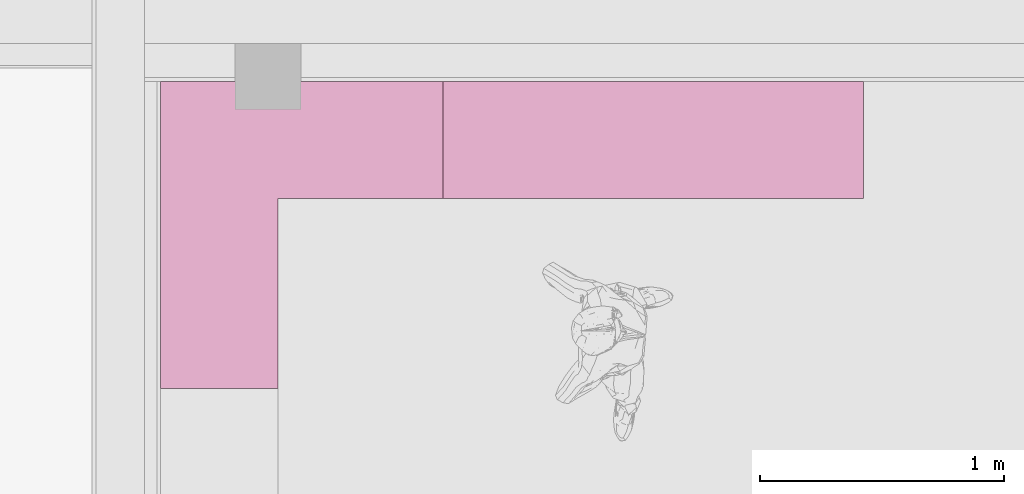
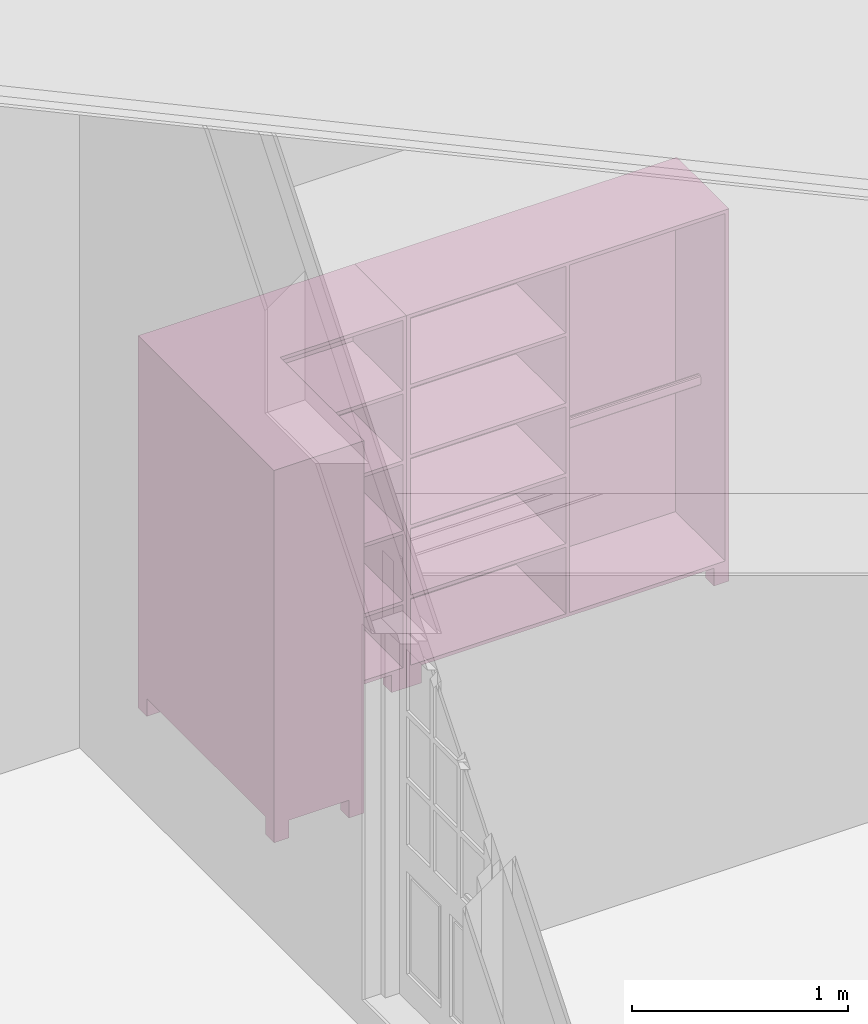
# One storey, part 22 of 24: 2 furnishings.
"""IFC2X3 building model written with IfcOpenShell, lengths in metres."""

from ifc_helpers import new_model, entity, si_unit, converted_unit, derived_unit, money_unit, direction, frame, origin_with_axes, place, context, subcontext, project, spatial, faceted_brep, type_object, element, save


model = new_model("IFC2X3")

# Units and contexts
model_context = context("Model", 3, precision=1e-05, world=origin_with_axes(), true_north=direction((0.0, 1.0)))
body_context = subcontext(model_context, "Body", "Model", "MODEL_VIEW")
ifc_project = project(units=[si_unit("LENGTHUNIT", "METRE"), si_unit("AREAUNIT", "SQUARE_METRE"), si_unit("VOLUMEUNIT", "CUBIC_METRE"), converted_unit("PLANEANGLEUNIT", "DEGREE", entity("IfcPlaneAngleMeasure", 0.0174532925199), si_unit("PLANEANGLEUNIT", "RADIAN"), dimensions=[0, 0, 0, 0, 0, 0, 0]), si_unit("SOLIDANGLEUNIT", "STERADIAN"), money_unit("CHF"), converted_unit("TIMEUNIT", "Year", entity("IfcTimeMeasure", 31556926.0), si_unit("TIMEUNIT", "SECOND"), dimensions=[0, 0, 1, 0, 0, 0, 0]), si_unit("MASSUNIT", "GRAM", prefix="KILO"), si_unit("THERMODYNAMICTEMPERATUREUNIT", "DEGREE_CELSIUS"), si_unit("LUMINOUSINTENSITYUNIT", "LUMEN"), si_unit("ENERGYUNIT", "JOULE", prefix="MEGA"), derived_unit("THERMALCONDUCTANCEUNIT", [(si_unit("POWERUNIT", "WATT"), 1), (si_unit("LENGTHUNIT", "METRE"), -1), (si_unit("THERMODYNAMICTEMPERATUREUNIT", "KELVIN"), -1)]), derived_unit("SPECIFICHEATCAPACITYUNIT", [(si_unit("ENERGYUNIT", "JOULE"), 1), (si_unit("MASSUNIT", "GRAM", prefix="KILO"), -1), (si_unit("THERMODYNAMICTEMPERATUREUNIT", "KELVIN"), -1)]), derived_unit("MASSDENSITYUNIT", [(si_unit("MASSUNIT", "GRAM", prefix="KILO"), 1), (si_unit("VOLUMEUNIT", "CUBIC_METRE"), -1)])], contexts=[model_context])

# Site, building, storey
site_placement = place(None, origin_with_axes())
site = spatial("IfcSite", under=ifc_project, at=site_placement, Name="Site", CompositionType="ELEMENT")
building_placement = place(site_placement, origin_with_axes())
building = spatial("IfcBuilding", under=site, at=building_placement, Name="Bâtiment", CompositionType="ELEMENT")
storey_placement = place(building_placement, origin_with_axes())
storey = spatial("IfcBuildingStorey", under=building, at=storey_placement, Name="Rez-de-chaussée", CompositionType="ELEMENT", Elevation=0.0)

# Furnishings
furniture_type = type_object("IfcFurnitureType", Name="Armoire 01 24", AssemblyPlace="NOTDEFINED")
furnishing_1_placement = place(storey_placement, frame((23.6671417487, 14.7825937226, 0.16), z_axis=(0.0, 0.0, 1.0), x_axis=(1.0, 0.0, 0.0)))
element("IfcFurnishingElement", 1, at=furnishing_1_placement, inside=storey, type_object=furniture_type, Name="MOBILIER-007", context=body_context, shape_type="Brep", body=[
    faceted_brep([(0.0, 0.0, 0.12), (0.48, 0.0, 0.12), (0.48, 0.0, 2.08), (0.0, 0.0, 2.08), (0.0, 1.25534092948, 0.12), (1.15457870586, 1.25534092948, 0.12), (1.15457870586, 0.775340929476, 0.12), (1.13457870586, 0.775340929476, 0.12), (1.13457870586, 1.23534092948, 0.12), (0.02, 1.23534092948, 0.12), (0.02, 0.02, 0.12), (0.48, 0.02, 0.12), (0.48, 0.02, 2.08), (0.02, 0.02, 2.08), (0.02, 1.23534092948, 2.08), (1.13457870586, 1.23534092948, 2.08), (1.13457870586, 0.775340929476, 2.08), (1.15457870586, 0.775340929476, 2.08), (1.15457870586, 1.25534092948, 2.08), (0.0, 1.25534092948, 2.08)], [[[0, 1, 2, 3]], [[0, 4, 5, 6, 7, 8, 9, 10, 11, 1]], [[1, 11, 12, 2]], [[3, 2, 12, 13, 14, 15, 16, 17, 18, 19]], [[4, 0, 3, 19]], [[5, 4, 19, 18]], [[6, 5, 18, 17]], [[7, 6, 17, 16]], [[8, 7, 16, 15]], [[9, 8, 15, 14]], [[10, 9, 14, 13]], [[11, 10, 13, 12]]]),
    faceted_brep([(0.48, 0.775340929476, 0.1), (1.13457870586, 0.775340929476, 0.1), (1.13457870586, 0.775340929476, 0.12), (0.48, 0.775340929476, 0.12), (0.0, 1.25534092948, 0.1), (1.15457870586, 1.25534092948, 0.1), (1.15457870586, 0.775340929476, 0.1), (1.15457870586, 0.775340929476, 0.12), (1.15457870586, 1.25534092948, 0.12), (0.0, 1.25534092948, 0.12)], [[[0, 1, 2, 3]], [[0, 4, 5, 6, 1]], [[1, 6, 7, 2]], [[3, 2, 7, 8, 9]], [[4, 0, 3, 9]], [[5, 4, 9, 8]], [[6, 5, 8, 7]]]),
    faceted_brep([(0.0, 0.0, 0.1), (0.48, 0.0, 0.1), (0.48, 0.0, 0.12), (0.0, 0.0, 0.12), (0.0, 1.25534092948, 0.1), (0.48, 0.775340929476, 0.1), (0.48, 0.02, 0.1), (0.48, 0.02, 0.12), (0.48, 0.775340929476, 0.12), (0.0, 1.25534092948, 0.12)], [[[0, 1, 2, 3]], [[0, 4, 5, 6, 1]], [[1, 6, 7, 2]], [[3, 2, 7, 8, 9]], [[4, 0, 3, 9]], [[5, 4, 9, 8]], [[6, 5, 8, 7]]]),
    faceted_brep([(0.48, 0.775340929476, 2.08), (1.13457870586, 0.775340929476, 2.08), (1.13457870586, 0.775340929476, 2.1), (0.48, 0.775340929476, 2.1), (0.0, 1.25534092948, 2.08), (1.15457870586, 1.25534092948, 2.08), (1.15457870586, 0.775340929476, 2.08), (1.15457870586, 0.775340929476, 2.1), (1.15457870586, 1.25534092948, 2.1), (0.0, 1.25534092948, 2.1)], [[[0, 1, 2, 3]], [[0, 4, 5, 6, 1]], [[1, 6, 7, 2]], [[3, 2, 7, 8, 9]], [[4, 0, 3, 9]], [[5, 4, 9, 8]], [[6, 5, 8, 7]]]),
    faceted_brep([(0.0, 0.0, 2.08), (0.48, 0.0, 2.08), (0.48, 0.0, 2.1), (0.0, 0.0, 2.1), (0.0, 1.25534092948, 2.08), (0.48, 0.775340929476, 2.08), (0.48, 0.02, 2.08), (0.48, 0.02, 2.1), (0.48, 0.775340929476, 2.1), (0.0, 1.25534092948, 2.1)], [[[0, 1, 2, 3]], [[0, 4, 5, 6, 1]], [[1, 6, 7, 2]], [[3, 2, 7, 8, 9]], [[4, 0, 3, 9]], [[5, 4, 9, 8]], [[6, 5, 8, 7]]]),
    faceted_brep([(0.08, 1.17534092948, 0.0), (0.08, 1.25534092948, 0.0), (0.08, 1.25534092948, 0.1), (0.08, 1.17534092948, 0.1), (0.0, 1.17534092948, 0.0), (0.0, 1.25534092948, 0.0), (0.0, 1.25534092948, 0.1), (0.0, 1.17534092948, 0.1)], [[[0, 1, 2, 3]], [[0, 4, 5, 1]], [[1, 5, 6, 2]], [[3, 2, 6, 7]], [[4, 0, 3, 7]], [[5, 4, 7, 6]]]),
    faceted_brep([(1.15457870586, 1.17534092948, 0.0), (1.15457870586, 1.25534092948, 0.0), (1.15457870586, 1.25534092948, 0.1), (1.15457870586, 1.17534092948, 0.1), (1.07457870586, 1.17534092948, 0.0), (1.07457870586, 1.25534092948, 0.0), (1.07457870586, 1.25534092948, 0.1), (1.07457870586, 1.17534092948, 0.1)], [[[0, 1, 2, 3]], [[0, 4, 5, 1]], [[1, 5, 6, 2]], [[3, 2, 6, 7]], [[4, 0, 3, 7]], [[5, 4, 7, 6]]]),
    faceted_brep([(0.08, 0.0, 0.0), (0.08, 0.08, 0.0), (0.08, 0.08, 0.1), (0.08, 0.0, 0.1), (0.0, 0.0, 0.0), (0.0, 0.08, 0.0), (0.0, 0.08, 0.1), (0.0, 0.0, 0.1)], [[[0, 1, 2, 3]], [[0, 4, 5, 1]], [[1, 5, 6, 2]], [[3, 2, 6, 7]], [[4, 0, 3, 7]], [[5, 4, 7, 6]]]),
    faceted_brep([(0.48, 0.0, 0.0), (0.48, 0.08, 0.0), (0.48, 0.08, 0.1), (0.48, 0.0, 0.1), (0.4, 0.0, 0.0), (0.4, 0.08, 0.0), (0.4, 0.08, 0.1), (0.4, 0.0, 0.1)], [[[0, 1, 2, 3]], [[0, 4, 5, 1]], [[1, 5, 6, 2]], [[3, 2, 6, 7]], [[4, 0, 3, 7]], [[5, 4, 7, 6]]]),
    faceted_brep([(1.15457870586, 0.775340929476, 0.0), (1.15457870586, 0.855340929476, 0.0), (1.15457870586, 0.855340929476, 0.1), (1.15457870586, 0.775340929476, 0.1), (1.07457870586, 0.775340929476, 0.0), (1.07457870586, 0.855340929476, 0.0), (1.07457870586, 0.855340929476, 0.1), (1.07457870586, 0.775340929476, 0.1)], [[[0, 1, 2, 3]], [[0, 4, 5, 1]], [[1, 5, 6, 2]], [[3, 2, 6, 7]], [[4, 0, 3, 7]], [[5, 4, 7, 6]]]),
    faceted_brep([(0.48, 0.775340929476, 0.0), (0.48, 0.855340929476, 0.0), (0.48, 0.855340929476, 0.1), (0.48, 0.775340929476, 0.1), (0.4, 0.775340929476, 0.0), (0.4, 0.855340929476, 0.0), (0.4, 0.855340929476, 0.1), (0.4, 0.775340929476, 0.1)], [[[0, 1, 2, 3]], [[0, 4, 5, 1]], [[1, 5, 6, 2]], [[3, 2, 6, 7]], [[4, 0, 3, 7]], [[5, 4, 7, 6]]]),
    faceted_brep([(0.48, 0.775340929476, 0.476), (1.13457870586, 0.775340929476, 0.476), (1.13457870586, 0.775340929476, 0.496), (0.48, 0.775340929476, 0.496), (0.02, 1.23534092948, 0.476), (1.13457870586, 1.23534092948, 0.476), (1.13457870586, 1.23534092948, 0.496), (0.02, 1.23534092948, 0.496)], [[[0, 1, 2, 3]], [[0, 4, 5, 1]], [[1, 5, 6, 2]], [[3, 2, 6, 7]], [[4, 0, 3, 7]], [[5, 4, 7, 6]]]),
    faceted_brep([(0.02, 0.02, 0.476), (0.48, 0.02, 0.476), (0.48, 0.02, 0.496), (0.02, 0.02, 0.496), (0.02, 1.23534092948, 0.476), (0.48, 0.775340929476, 0.476), (0.48, 0.775340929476, 0.496), (0.02, 1.23534092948, 0.496)], [[[0, 1, 2, 3]], [[0, 4, 5, 1]], [[1, 5, 6, 2]], [[3, 2, 6, 7]], [[4, 0, 3, 7]], [[5, 4, 7, 6]]]),
    faceted_brep([(0.48, 0.775340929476, 0.872), (1.13457870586, 0.775340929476, 0.872), (1.13457870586, 0.775340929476, 0.892), (0.48, 0.775340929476, 0.892), (0.02, 1.23534092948, 0.872), (1.13457870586, 1.23534092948, 0.872), (1.13457870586, 1.23534092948, 0.892), (0.02, 1.23534092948, 0.892)], [[[0, 1, 2, 3]], [[0, 4, 5, 1]], [[1, 5, 6, 2]], [[3, 2, 6, 7]], [[4, 0, 3, 7]], [[5, 4, 7, 6]]]),
    faceted_brep([(0.02, 0.02, 0.872), (0.48, 0.02, 0.872), (0.48, 0.02, 0.892), (0.02, 0.02, 0.892), (0.02, 1.23534092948, 0.872), (0.48, 0.775340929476, 0.872), (0.48, 0.775340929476, 0.892), (0.02, 1.23534092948, 0.892)], [[[0, 1, 2, 3]], [[0, 4, 5, 1]], [[1, 5, 6, 2]], [[3, 2, 6, 7]], [[4, 0, 3, 7]], [[5, 4, 7, 6]]]),
    faceted_brep([(0.48, 0.775340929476, 1.268), (1.13457870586, 0.775340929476, 1.268), (1.13457870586, 0.775340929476, 1.288), (0.48, 0.775340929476, 1.288), (0.02, 1.23534092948, 1.268), (1.13457870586, 1.23534092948, 1.268), (1.13457870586, 1.23534092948, 1.288), (0.02, 1.23534092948, 1.288)], [[[0, 1, 2, 3]], [[0, 4, 5, 1]], [[1, 5, 6, 2]], [[3, 2, 6, 7]], [[4, 0, 3, 7]], [[5, 4, 7, 6]]]),
    faceted_brep([(0.02, 0.02, 1.268), (0.48, 0.02, 1.268), (0.48, 0.02, 1.288), (0.02, 0.02, 1.288), (0.02, 1.23534092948, 1.268), (0.48, 0.775340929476, 1.268), (0.48, 0.775340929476, 1.288), (0.02, 1.23534092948, 1.288)], [[[0, 1, 2, 3]], [[0, 4, 5, 1]], [[1, 5, 6, 2]], [[3, 2, 6, 7]], [[4, 0, 3, 7]], [[5, 4, 7, 6]]]),
    faceted_brep([(0.48, 0.775340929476, 1.664), (1.13457870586, 0.775340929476, 1.664), (1.13457870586, 0.775340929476, 1.684), (0.48, 0.775340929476, 1.684), (0.02, 1.23534092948, 1.664), (1.13457870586, 1.23534092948, 1.664), (1.13457870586, 1.23534092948, 1.684), (0.02, 1.23534092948, 1.684)], [[[0, 1, 2, 3]], [[0, 4, 5, 1]], [[1, 5, 6, 2]], [[3, 2, 6, 7]], [[4, 0, 3, 7]], [[5, 4, 7, 6]]]),
    faceted_brep([(0.02, 0.02, 1.664), (0.48, 0.02, 1.664), (0.48, 0.02, 1.684), (0.02, 0.02, 1.684), (0.02, 1.23534092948, 1.664), (0.48, 0.775340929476, 1.664), (0.48, 0.775340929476, 1.684), (0.02, 1.23534092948, 1.684)], [[[0, 1, 2, 3]], [[0, 4, 5, 1]], [[1, 5, 6, 2]], [[3, 2, 6, 7]], [[4, 0, 3, 7]], [[5, 4, 7, 6]]]),
])
furnishing_2_placement = place(storey_placement, frame((24.8217204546, 15.5379346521, 0.16), z_axis=(0.0, 0.0, 1.0), x_axis=(1.0, 0.0, 0.0)))
element("IfcFurnishingElement", 2, at=furnishing_2_placement, inside=storey, type_object=furniture_type, Name="MOBILIER-008", context=body_context, shape_type="Brep", body=[
    faceted_brep([(0.02, 0.5, 0.12), (0.02, 0.48, 0.12), (0.02, 0.48, 2.08), (0.02, 0.5, 2.08), (1.70042129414, 0.5, 0.12), (1.70042129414, 0.48, 0.12), (1.70042129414, 0.48, 2.08), (1.70042129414, 0.5, 2.08)], [[[0, 1, 2, 3]], [[0, 4, 5, 1]], [[1, 5, 6, 2]], [[3, 2, 6, 7]], [[4, 0, 3, 7]], [[5, 4, 7, 6]]]),
    faceted_brep([(1.72042129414, 0.02, 0.1), (1.70042129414, 0.02, 0.1), (1.70042129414, 0.5, 0.1), (1.72042129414, 0.5, 0.1), (1.72042129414, 0.02, 2.1), (1.70042129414, 0.02, 2.1), (1.70042129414, 0.5, 2.1), (1.72042129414, 0.5, 2.1)], [[[0, 1, 2, 3]], [[1, 0, 4, 5]], [[2, 1, 5, 6]], [[3, 2, 6, 7]], [[0, 3, 7, 4]], [[5, 4, 7, 6]]]),
    faceted_brep([(0.02, 0.02, 0.1), (0.0, 0.02, 0.1), (0.0, 0.5, 0.1), (0.02, 0.5, 0.1), (0.02, 0.02, 2.1), (0.0, 0.02, 2.1), (0.0, 0.5, 2.1), (0.02, 0.5, 2.1)], [[[0, 1, 2, 3]], [[1, 0, 4, 5]], [[2, 1, 5, 6]], [[3, 2, 6, 7]], [[0, 3, 7, 4]], [[5, 4, 7, 6]]]),
    faceted_brep([(1.70042129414, 0.02, 0.1), (0.02, 0.02, 0.1), (0.02, 0.5, 0.1), (1.70042129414, 0.5, 0.1), (1.70042129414, 0.02, 0.12), (0.02, 0.02, 0.12), (0.02, 0.5, 0.12), (1.70042129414, 0.5, 0.12)], [[[0, 1, 2, 3]], [[1, 0, 4, 5]], [[2, 1, 5, 6]], [[3, 2, 6, 7]], [[0, 3, 7, 4]], [[5, 4, 7, 6]]]),
    faceted_brep([(1.70042129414, 0.02, 2.08), (0.02, 0.02, 2.08), (0.02, 0.5, 2.08), (1.70042129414, 0.5, 2.08), (1.70042129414, 0.02, 2.1), (0.02, 0.02, 2.1), (0.02, 0.5, 2.1), (1.70042129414, 0.5, 2.1)], [[[0, 1, 2, 3]], [[1, 0, 4, 5]], [[2, 1, 5, 6]], [[3, 2, 6, 7]], [[0, 3, 7, 4]], [[5, 4, 7, 6]]]),
    faceted_brep([(0.08, 0.42, 0.0), (0.08, 0.5, 0.0), (0.08, 0.5, 0.1), (0.08, 0.42, 0.1), (0.0, 0.42, 0.0), (0.0, 0.5, 0.0), (0.0, 0.5, 0.1), (0.0, 0.42, 0.1)], [[[0, 1, 2, 3]], [[0, 4, 5, 1]], [[1, 5, 6, 2]], [[3, 2, 6, 7]], [[4, 0, 3, 7]], [[5, 4, 7, 6]]]),
    faceted_brep([(1.72042129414, 0.42, 0.0), (1.72042129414, 0.5, 0.0), (1.72042129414, 0.5, 0.1), (1.72042129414, 0.42, 0.1), (1.64042129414, 0.42, 0.0), (1.64042129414, 0.5, 0.0), (1.64042129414, 0.5, 0.1), (1.64042129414, 0.42, 0.1)], [[[0, 1, 2, 3]], [[0, 4, 5, 1]], [[1, 5, 6, 2]], [[3, 2, 6, 7]], [[4, 0, 3, 7]], [[5, 4, 7, 6]]]),
    faceted_brep([(0.08, 0.02, 0.0), (0.08, 0.1, 0.0), (0.08, 0.1, 0.1), (0.08, 0.02, 0.1), (0.0, 0.02, 0.0), (0.0, 0.1, 0.0), (0.0, 0.1, 0.1), (0.0, 0.02, 0.1)], [[[0, 1, 2, 3]], [[0, 4, 5, 1]], [[1, 5, 6, 2]], [[3, 2, 6, 7]], [[4, 0, 3, 7]], [[5, 4, 7, 6]]]),
    faceted_brep([(1.72042129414, 0.02, 0.0), (1.72042129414, 0.1, 0.0), (1.72042129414, 0.1, 0.1), (1.72042129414, 0.02, 0.1), (1.64042129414, 0.02, 0.0), (1.64042129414, 0.1, 0.0), (1.64042129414, 0.1, 0.1), (1.64042129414, 0.02, 0.1)], [[[0, 1, 2, 3]], [[0, 4, 5, 1]], [[1, 5, 6, 2]], [[3, 2, 6, 7]], [[4, 0, 3, 7]], [[5, 4, 7, 6]]]),
    faceted_brep([(0.02, 0.48, 0.496), (0.02, 0.02, 0.496), (0.02, 0.02, 0.516), (0.02, 0.48, 0.516), (0.850210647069, 0.48, 0.496), (0.850210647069, 0.02, 0.496), (0.850210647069, 0.02, 0.516), (0.850210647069, 0.48, 0.516)], [[[0, 1, 2, 3]], [[0, 4, 5, 1]], [[1, 5, 6, 2]], [[3, 2, 6, 7]], [[4, 0, 3, 7]], [[5, 4, 7, 6]]]),
    faceted_brep([(0.02, 0.48, 0.892), (0.02, 0.02, 0.892), (0.02, 0.02, 0.912), (0.02, 0.48, 0.912), (0.850210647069, 0.48, 0.892), (0.850210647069, 0.02, 0.892), (0.850210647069, 0.02, 0.912), (0.850210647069, 0.48, 0.912)], [[[0, 1, 2, 3]], [[0, 4, 5, 1]], [[1, 5, 6, 2]], [[3, 2, 6, 7]], [[4, 0, 3, 7]], [[5, 4, 7, 6]]]),
    faceted_brep([(0.02, 0.48, 1.288), (0.02, 0.02, 1.288), (0.02, 0.02, 1.308), (0.02, 0.48, 1.308), (0.850210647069, 0.48, 1.288), (0.850210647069, 0.02, 1.288), (0.850210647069, 0.02, 1.308), (0.850210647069, 0.48, 1.308)], [[[0, 1, 2, 3]], [[0, 4, 5, 1]], [[1, 5, 6, 2]], [[3, 2, 6, 7]], [[4, 0, 3, 7]], [[5, 4, 7, 6]]]),
    faceted_brep([(0.02, 0.48, 1.684), (0.02, 0.02, 1.684), (0.02, 0.02, 1.704), (0.02, 0.48, 1.704), (0.850210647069, 0.48, 1.684), (0.850210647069, 0.02, 1.684), (0.850210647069, 0.02, 1.704), (0.850210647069, 0.48, 1.704)], [[[0, 1, 2, 3]], [[0, 4, 5, 1]], [[1, 5, 6, 2]], [[3, 2, 6, 7]], [[4, 0, 3, 7]], [[5, 4, 7, 6]]]),
    faceted_brep([(0.850210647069, 0.48, 0.12), (0.850210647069, 0.02, 0.12), (0.850210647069, 0.02, 2.08), (0.850210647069, 0.48, 2.08), (0.870210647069, 0.48, 0.12), (0.870210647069, 0.02, 0.12), (0.870210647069, 0.02, 2.08), (0.870210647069, 0.48, 2.08)], [[[0, 1, 2, 3]], [[0, 4, 5, 1]], [[1, 5, 6, 2]], [[3, 2, 6, 7]], [[4, 0, 3, 7]], [[5, 4, 7, 6]]]),
    faceted_brep([(0.870210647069, 0.245, 0.985), (0.870210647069, 0.247009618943, 0.9775), (1.70042129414, 0.247009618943, 0.9775), (1.70042129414, 0.245, 0.985), (0.870210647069, 0.245, 1.015), (0.870210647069, 0.247009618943, 1.0225), (0.870210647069, 0.2525, 1.02799038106), (0.870210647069, 0.26, 1.03), (0.870210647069, 0.2675, 1.02799038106), (0.870210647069, 0.272990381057, 1.0225), (0.870210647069, 0.275, 1.015), (0.870210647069, 0.275, 0.985), (0.870210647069, 0.272990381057, 0.9775), (0.870210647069, 0.2675, 0.972009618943), (0.870210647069, 0.26, 0.97), (0.870210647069, 0.2525, 0.972009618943), (1.70042129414, 0.2525, 0.972009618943), (1.70042129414, 0.26, 0.97), (1.70042129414, 0.2675, 0.972009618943), (1.70042129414, 0.272990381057, 0.9775), (1.70042129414, 0.275, 0.985), (1.70042129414, 0.275, 1.015), (1.70042129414, 0.272990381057, 1.0225), (1.70042129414, 0.2675, 1.02799038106), (1.70042129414, 0.26, 1.03), (1.70042129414, 0.2525, 1.02799038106), (1.70042129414, 0.247009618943, 1.0225), (1.70042129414, 0.245, 1.015)], [[[0, 1, 2, 3]], [[0, 4, 5, 6, 7, 8, 9, 10, 11, 12, 13, 14, 15, 1]], [[1, 15, 16, 2]], [[3, 2, 16, 17, 18, 19, 20, 21, 22, 23, 24, 25, 26, 27]], [[4, 0, 3, 27]], [[5, 4, 27, 26]], [[6, 5, 26, 25]], [[7, 6, 25, 24]], [[8, 7, 24, 23]], [[9, 8, 23, 22]], [[10, 9, 22, 21]], [[11, 10, 21, 20]], [[12, 11, 20, 19]], [[13, 12, 19, 18]], [[14, 13, 18, 17]], [[15, 14, 17, 16]]]),
    faceted_brep([(0.870210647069, 0.245, 1.915), (0.870210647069, 0.247009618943, 1.9075), (1.70042129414, 0.247009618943, 1.9075), (1.70042129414, 0.245, 1.915), (0.870210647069, 0.245, 1.945), (0.870210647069, 0.247009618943, 1.9525), (0.870210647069, 0.2525, 1.95799038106), (0.870210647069, 0.26, 1.96), (0.870210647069, 0.2675, 1.95799038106), (0.870210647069, 0.272990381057, 1.9525), (0.870210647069, 0.275, 1.945), (0.870210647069, 0.275, 1.915), (0.870210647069, 0.272990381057, 1.9075), (0.870210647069, 0.2675, 1.90200961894), (0.870210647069, 0.26, 1.9), (0.870210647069, 0.2525, 1.90200961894), (1.70042129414, 0.2525, 1.90200961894), (1.70042129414, 0.26, 1.9), (1.70042129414, 0.2675, 1.90200961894), (1.70042129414, 0.272990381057, 1.9075), (1.70042129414, 0.275, 1.915), (1.70042129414, 0.275, 1.945), (1.70042129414, 0.272990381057, 1.9525), (1.70042129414, 0.2675, 1.95799038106), (1.70042129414, 0.26, 1.96), (1.70042129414, 0.2525, 1.95799038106), (1.70042129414, 0.247009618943, 1.9525), (1.70042129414, 0.245, 1.945)], [[[0, 1, 2, 3]], [[0, 4, 5, 6, 7, 8, 9, 10, 11, 12, 13, 14, 15, 1]], [[1, 15, 16, 2]], [[3, 2, 16, 17, 18, 19, 20, 21, 22, 23, 24, 25, 26, 27]], [[4, 0, 3, 27]], [[5, 4, 27, 26]], [[6, 5, 26, 25]], [[7, 6, 25, 24]], [[8, 7, 24, 23]], [[9, 8, 23, 22]], [[10, 9, 22, 21]], [[11, 10, 21, 20]], [[12, 11, 20, 19]], [[13, 12, 19, 18]], [[14, 13, 18, 17]], [[15, 14, 17, 16]]]),
])

save(model, "model.ifc")
